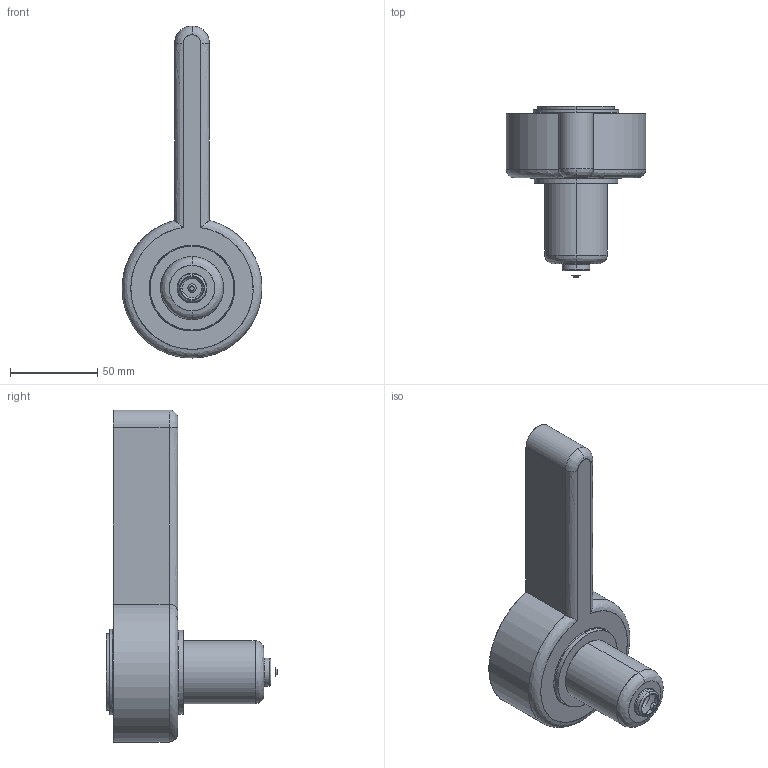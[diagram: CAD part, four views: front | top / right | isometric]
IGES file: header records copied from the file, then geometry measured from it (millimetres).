
Start section: SolidWorks IGES file using analytic representation for surfaces
Global section: file name: C:\Documents and Settings\ws-20\Desktop\TEM\Sede UGEP5501-S-A C-54 L-91 Ød-2.5.IGS; native system: SolidWorks 2012; preprocessor: SolidWorks 2012; author: ws-20; date: 120427.085754; units: millimetre
Bounding box: 80 x 98.14 x 190 mm (x, y, z)
Surface area: 36775.2 mm2 (no closed solid volume)
Topology: 0 solids, 0 shells, 44 faces, 952 edges, 952 vertices
Faces by surface type: revolution 27, bspline 17
